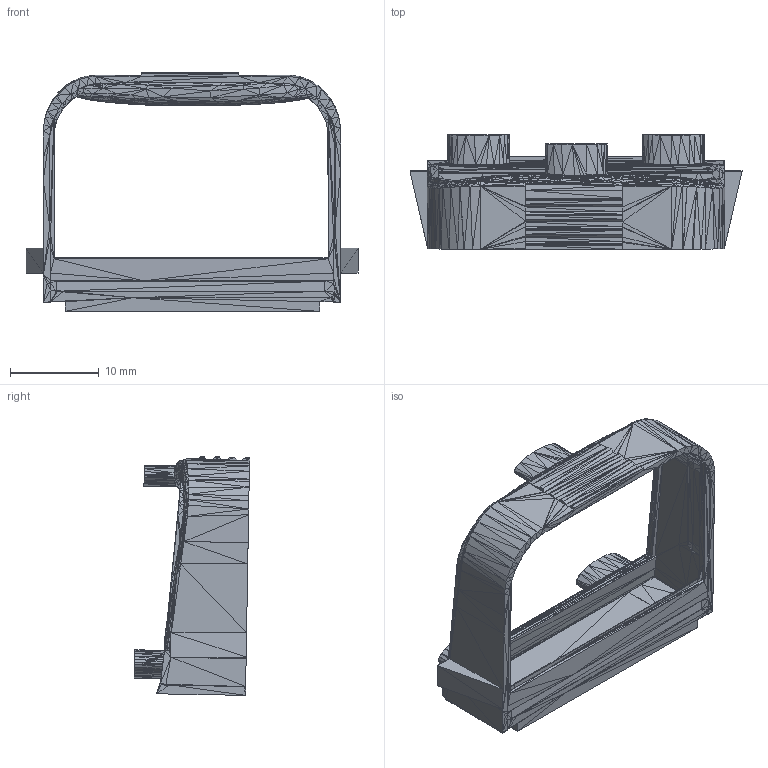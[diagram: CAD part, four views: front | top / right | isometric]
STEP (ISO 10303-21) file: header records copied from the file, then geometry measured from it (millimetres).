
FILE_DESCRIPTION(('FreeCAD Model'),'2;1');
FILE_NAME('Open CASCADE Shape Model','2025-03-06T13:09:49',('Author'),( ''),'Open CASCADE STEP processor 7.8','FreeCAD','Unknown');
FILE_SCHEMA(('AUTOMOTIVE_DESIGN { 1 0 10303 214 1 1 1 1 }'));
Products named in the file (1): FOSSToritisLensHolder002 (Solid)
Bounding box: 37.49 x 13 x 26.96 mm (x, y, z)
Volume: 1727.5 mm3; surface area: 3169.1 mm2
Topology: 3 solids, 3 shells, 3386 faces, 5067 edges, 1681 vertices
Faces by surface type: plane 3386
Entity records: 65973 total; most frequent: DIRECTION 11841, ORIENTED_EDGE 10158, CARTESIAN_POINT 10135, EDGE_CURVE 5067, LINE 5067, VECTOR 5067, AXIS2_PLACEMENT_3D 3387, ADVANCED_FACE 3386
